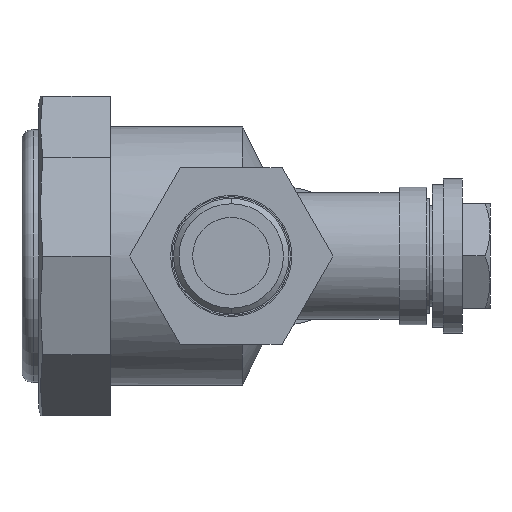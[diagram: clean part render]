
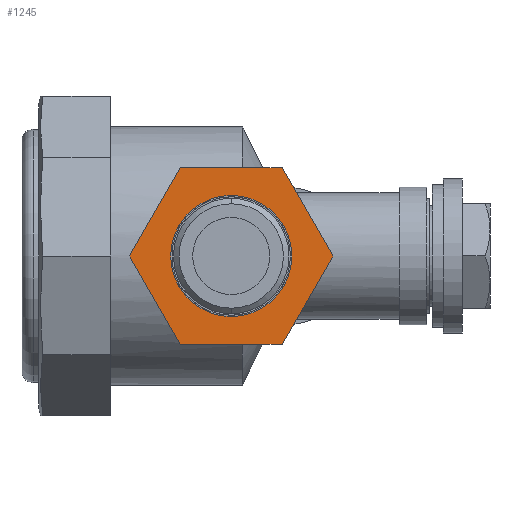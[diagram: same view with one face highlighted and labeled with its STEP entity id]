
A CAD part, left-side view. The second image highlights one B-rep face of the part: STEP entity #1245.
In plain terms, the highlighted planar face has unit normal (-1, 0, 0).
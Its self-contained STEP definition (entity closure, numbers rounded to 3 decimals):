
#244 = VERTEX_POINT ( 'NONE', #474 ) ;
#246 = VERTEX_POINT ( 'NONE', #426 ) ;
#410 = EDGE_CURVE ( 'NONE', #244, #246, #3256, .T. ) ;
#426 = CARTESIAN_POINT ( 'NONE',  ( -55.586, 2.816, 9.526 ) ) ;
#474 = CARTESIAN_POINT ( 'NONE',  ( -55.586, -8.184, -9.526 ) ) ;
#1245 = ADVANCED_FACE ( 'NONE', ( #3299, #3298 ), #3297, .T. ) ;
#1248 = EDGE_LOOP ( 'NONE', ( #1989, #1806, #1994, #1894, #1280, #2053 ) ) ;
#1280 = ORIENTED_EDGE ( 'NONE', *, *, #1761, .T. ) ;
#1752 = VERTEX_POINT ( 'NONE', #3291 ) ;
#1761 = EDGE_CURVE ( 'NONE', #1940, #2239, #3416, .T. ) ;
#1762 = EDGE_CURVE ( 'NONE', #1764, #1963, #3412, .T. ) ;
#1764 = VERTEX_POINT ( 'NONE', #3408 ) ;
#1797 = VERTEX_POINT ( 'NONE', #3407 ) ;
#1806 = ORIENTED_EDGE ( 'NONE', *, *, #1925, .T. ) ;
#1859 = EDGE_CURVE ( 'NONE', #1752, #1797, #3406, .T. ) ;
#1872 = EDGE_CURVE ( 'NONE', #1963, #1940, #3402, .T. ) ;
#1894 = ORIENTED_EDGE ( 'NONE', *, *, #1872, .T. ) ;
#1925 = EDGE_CURVE ( 'NONE', #1797, #1764, #3398, .T. ) ;
#1940 = VERTEX_POINT ( 'NONE', #3392 ) ;
#1963 = VERTEX_POINT ( 'NONE', #3394 ) ;
#1989 = ORIENTED_EDGE ( 'NONE', *, *, #1859, .T. ) ;
#1994 = ORIENTED_EDGE ( 'NONE', *, *, #1762, .T. ) ;
#2053 = ORIENTED_EDGE ( 'NONE', *, *, #2254, .T. ) ;
#2058 = ORIENTED_EDGE ( 'NONE', *, *, #4224, .F. ) ;
#2122 = EDGE_LOOP ( 'NONE', ( #2058, #2224 ) ) ;
#2224 = ORIENTED_EDGE ( 'NONE', *, *, #410, .F. ) ;
#2239 = VERTEX_POINT ( 'NONE', #3361 ) ;
#2254 = EDGE_CURVE ( 'NONE', #2239, #1752, #3360, .T. ) ;
#3256 = CIRCLE ( 'NONE', #3387, 11. ) ;
#3283 = DIRECTION ( 'NONE',  ( 0., -0.5, -0.866 ) ) ;
#3291 = CARTESIAN_POINT ( 'NONE',  ( -55.586, -11.922, 16. ) ) ;
#3293 = DIRECTION ( 'NONE',  ( 0., -0.5, -0.866 ) ) ;
#3294 = DIRECTION ( 'NONE',  ( -1., 0., 0. ) ) ;
#3295 = CARTESIAN_POINT ( 'NONE',  ( -55.586, 6.553, 16. ) ) ;
#3296 = AXIS2_PLACEMENT_3D ( 'NONE', #3295, #3294, #3293 ) ;
#3297 = PLANE ( 'NONE',  #3296 ) ;
#3298 = FACE_BOUND ( 'NONE', #2122, .T. ) ;
#3299 = FACE_OUTER_BOUND ( 'NONE', #1248, .T. ) ;
#3356 = DIRECTION ( 'NONE',  ( 0., 0.5, 0.866 ) ) ;
#3358 = VECTOR ( 'NONE', #3356, 1000. ) ;
#3359 = CARTESIAN_POINT ( 'NONE',  ( -55.586, -21.16, 0. ) ) ;
#3360 = LINE ( 'NONE', #3359, #3358 ) ;
#3361 = CARTESIAN_POINT ( 'NONE',  ( -55.586, -21.16, 0. ) ) ;
#3385 = DIRECTION ( 'NONE',  ( -1., 0., 0. ) ) ;
#3386 = CARTESIAN_POINT ( 'NONE',  ( -55.586, -2.684, 0. ) ) ;
#3387 = AXIS2_PLACEMENT_3D ( 'NONE', #3386, #3385, #3283 ) ;
#3392 = CARTESIAN_POINT ( 'NONE',  ( -55.586, -11.922, -16. ) ) ;
#3394 = CARTESIAN_POINT ( 'NONE',  ( -55.586, 6.553, -16. ) ) ;
#3395 = DIRECTION ( 'NONE',  ( 0., 0.5, -0.866 ) ) ;
#3396 = VECTOR ( 'NONE', #3395, 1000. ) ;
#3397 = CARTESIAN_POINT ( 'NONE',  ( -55.586, 6.553, 16. ) ) ;
#3398 = LINE ( 'NONE', #3397, #3396 ) ;
#3399 = DIRECTION ( 'NONE',  ( 0., -1., 0. ) ) ;
#3400 = VECTOR ( 'NONE', #3399, 1000. ) ;
#3401 = CARTESIAN_POINT ( 'NONE',  ( -55.586, 6.553, -16. ) ) ;
#3402 = LINE ( 'NONE', #3401, #3400 ) ;
#3403 = DIRECTION ( 'NONE',  ( 0., 1., 0. ) ) ;
#3404 = VECTOR ( 'NONE', #3403, 1000. ) ;
#3405 = CARTESIAN_POINT ( 'NONE',  ( -55.586, -11.922, 16. ) ) ;
#3406 = LINE ( 'NONE', #3405, #3404 ) ;
#3407 = CARTESIAN_POINT ( 'NONE',  ( -55.586, 6.553, 16. ) ) ;
#3408 = CARTESIAN_POINT ( 'NONE',  ( -55.586, 15.791, 0. ) ) ;
#3409 = DIRECTION ( 'NONE',  ( 0., -0.5, -0.866 ) ) ;
#3410 = VECTOR ( 'NONE', #3409, 1000. ) ;
#3411 = CARTESIAN_POINT ( 'NONE',  ( -55.586, 15.791, 0. ) ) ;
#3412 = LINE ( 'NONE', #3411, #3410 ) ;
#3413 = DIRECTION ( 'NONE',  ( 0., -0.5, 0.866 ) ) ;
#3414 = VECTOR ( 'NONE', #3413, 1000. ) ;
#3415 = CARTESIAN_POINT ( 'NONE',  ( -55.586, -11.922, -16. ) ) ;
#3416 = LINE ( 'NONE', #3415, #3414 ) ;
#3999 = DIRECTION ( 'NONE',  ( 0., -0.5, -0.866 ) ) ;
#4000 = DIRECTION ( 'NONE',  ( -1., 0., 0. ) ) ;
#4001 = CARTESIAN_POINT ( 'NONE',  ( -55.586, -2.684, 0. ) ) ;
#4002 = AXIS2_PLACEMENT_3D ( 'NONE', #4001, #4000, #3999 ) ;
#4003 = CIRCLE ( 'NONE', #4002, 11. ) ;
#4224 = EDGE_CURVE ( 'NONE', #246, #244, #4003, .T. ) ;
